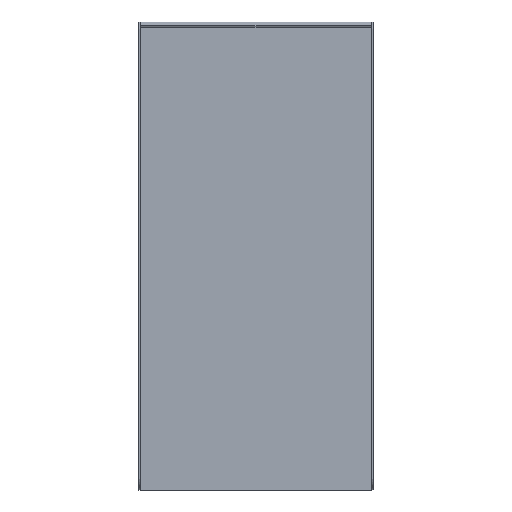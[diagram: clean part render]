
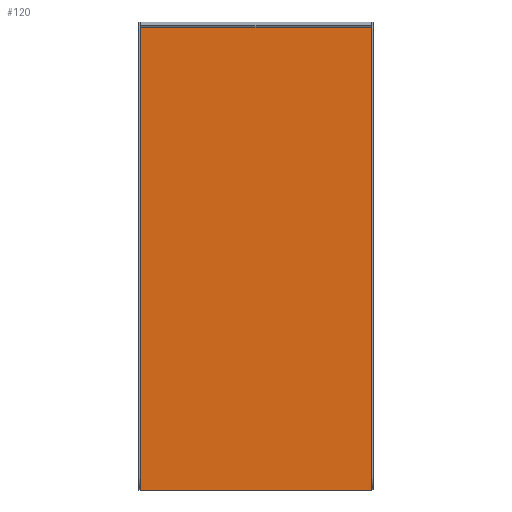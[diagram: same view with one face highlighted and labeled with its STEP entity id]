
A CAD part, front view. The second image highlights one B-rep face of the part: STEP entity #120.
In plain terms, the highlighted planar face has unit normal (0, -1, 0).
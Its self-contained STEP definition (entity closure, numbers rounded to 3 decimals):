
#38 = EDGE_CURVE ( 'NONE', #1318, #1602, #342, .T. ) ;
#78 = EDGE_CURVE ( 'NONE', #1602, #806, #1068, .T. ) ;
#120 = ADVANCED_FACE ( 'NONE', ( #1374 ), #1227, .T. ) ;
#145 = ORIENTED_EDGE ( 'NONE', *, *, #1819, .F. ) ;
#191 = DIRECTION ( 'NONE',  ( 0., 0., -1. ) ) ;
#275 = ORIENTED_EDGE ( 'NONE', *, *, #687, .F. ) ;
#342 = LINE ( 'NONE', #1062, #1047 ) ;
#377 = CARTESIAN_POINT ( 'NONE',  ( 0., 0., 0. ) ) ;
#453 = VECTOR ( 'NONE', #482, 1000. ) ;
#482 = DIRECTION ( 'NONE',  ( 0., 0., 1. ) ) ;
#593 = ORIENTED_EDGE ( 'NONE', *, *, #78, .F. ) ;
#608 = CARTESIAN_POINT ( 'NONE',  ( -497., 0., 247. ) ) ;
#654 = CARTESIAN_POINT ( 'NONE',  ( -497., 0., 247. ) ) ;
#687 = EDGE_CURVE ( 'NONE', #806, #1221, #1159, .T. ) ;
#765 = DIRECTION ( 'NONE',  ( 0., -1., 0. ) ) ;
#800 = AXIS2_PLACEMENT_3D ( 'NONE', #377, #765, #1397 ) ;
#806 = VERTEX_POINT ( 'NONE', #1384 ) ;
#931 = CARTESIAN_POINT ( 'NONE',  ( -497., 0., -247. ) ) ;
#1047 = VECTOR ( 'NONE', #191, 1000. ) ;
#1062 = CARTESIAN_POINT ( 'NONE',  ( 497., 0., 247. ) ) ;
#1068 = LINE ( 'NONE', #931, #1224 ) ;
#1092 = DIRECTION ( 'NONE',  ( 1., 0., 0. ) ) ;
#1094 = DIRECTION ( 'NONE',  ( -1., 0., 0. ) ) ;
#1159 = LINE ( 'NONE', #608, #453 ) ;
#1221 = VERTEX_POINT ( 'NONE', #1316 ) ;
#1224 = VECTOR ( 'NONE', #1094, 1000. ) ;
#1227 = PLANE ( 'NONE',  #800 ) ;
#1296 = VECTOR ( 'NONE', #1092, 1000. ) ;
#1316 = CARTESIAN_POINT ( 'NONE',  ( -497., 0., 247. ) ) ;
#1318 = VERTEX_POINT ( 'NONE', #1511 ) ;
#1345 = CARTESIAN_POINT ( 'NONE',  ( 497., 0., -247. ) ) ;
#1374 = FACE_OUTER_BOUND ( 'NONE', #1696, .T. ) ;
#1384 = CARTESIAN_POINT ( 'NONE',  ( -497., 0., -247. ) ) ;
#1397 = DIRECTION ( 'NONE',  ( 0., 0., -1. ) ) ;
#1511 = CARTESIAN_POINT ( 'NONE',  ( 497., 0., 247. ) ) ;
#1574 = ORIENTED_EDGE ( 'NONE', *, *, #38, .F. ) ;
#1602 = VERTEX_POINT ( 'NONE', #1345 ) ;
#1672 = LINE ( 'NONE', #654, #1296 ) ;
#1696 = EDGE_LOOP ( 'NONE', ( #1574, #145, #275, #593 ) ) ;
#1819 = EDGE_CURVE ( 'NONE', #1221, #1318, #1672, .T. ) ;
